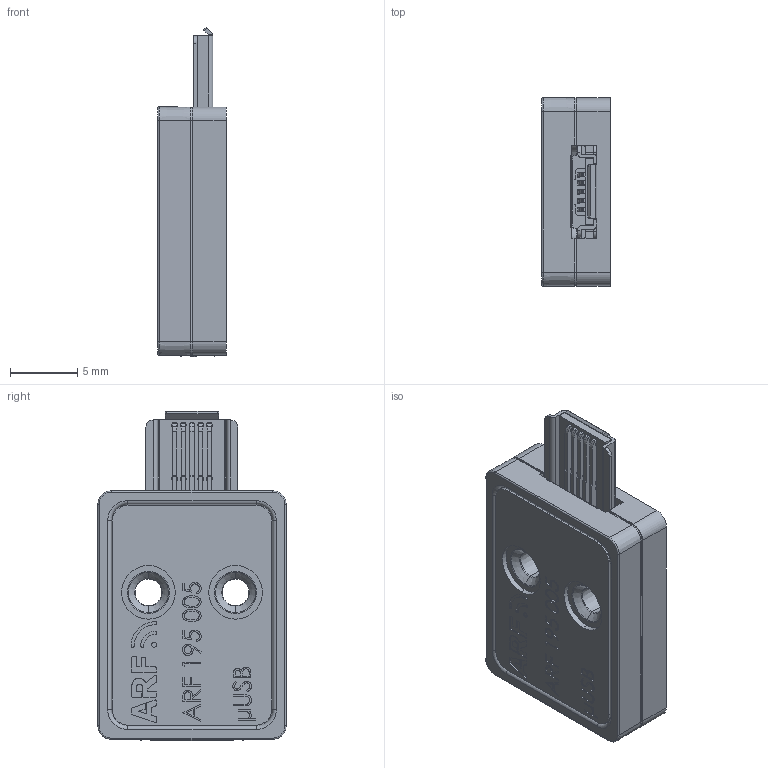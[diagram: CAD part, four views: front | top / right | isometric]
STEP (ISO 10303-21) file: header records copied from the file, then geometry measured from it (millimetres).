
FILE_DESCRIPTION (( 'STEP AP214' ), '1' );
FILE_NAME ('ARF195 005 猴SB.STEP', '2024-05-03T13:27:31', ( '' ), ( '' ), 'SwSTEP 2.0', 'SolidWorks 2015', '' );
FILE_SCHEMA (( 'AUTOMOTIVE_DESIGN' ));
Length unit declared in the file: millimetre
Products named in the file (11): 8017_018-v5-capot; 8017_080-G; 8017_800-G; 8017_104-moule; ARF195 005 猴SB; 8020_135; 8017_184-moule; 8017_017-v3-capot; 8017_112; sd-47642-001; 8017_103-Usiné
Assembly tree (14 placements, depth 3):
  ARF195 005 猴SB
    8017_080-G
      8017_800-G
      sd-47642-001
      8017_112
      8020_135  x5
    8017_018-v5-capot
      8017_103-Usiné
    8017_017-v3-capot
      8017_104-moule
      8017_184-moule
Bounding box: 5.1 x 14.04 x 24.54 mm (x, y, z)
Volume: 1004.5 mm3; surface area: 2777.4 mm2
Topology: 10 solids, 11 shells, 1620 faces, 4509 edges, 2898 vertices
Faces by surface type: plane 762, cylinder 617, bspline 117, torus 80, cone 28, sphere 16
Entity records: 52556 total; most frequent: CARTESIAN_POINT 14470, ORIENTED_EDGE 8030, DIRECTION 7731, EDGE_CURVE 4017, AXIS2_PLACEMENT_3D 2600, VERTEX_POINT 2586, VECTOR 2531, LINE 2531
